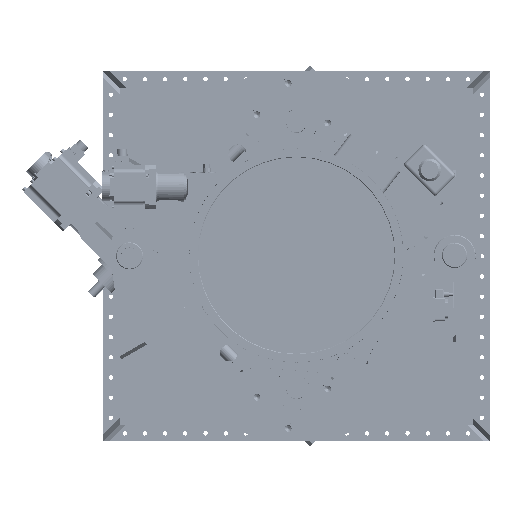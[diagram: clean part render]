
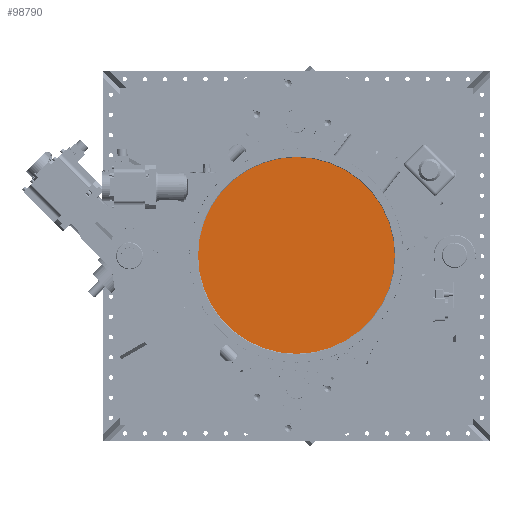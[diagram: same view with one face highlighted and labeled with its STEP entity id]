
A CAD part, top view. The second image highlights one B-rep face of the part: STEP entity #98790.
In plain terms, the highlighted planar face has unit normal (0, 0, 1).
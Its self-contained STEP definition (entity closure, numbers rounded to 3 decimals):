
#3598=PLANE('',#108183);
#10979=FACE_OUTER_BOUND('',#16944,.T.);
#16944=EDGE_LOOP('',(#80237));
#22559=CIRCLE('',#107918,292.1);
#42883=VERTEX_POINT('',#172237);
#55627=EDGE_CURVE('',#42883,#42883,#22559,.T.);
#80237=ORIENTED_EDGE('',*,*,#55627,.F.);
#98790=ADVANCED_FACE('',(#10979),#3598,.T.);
#107918=AXIS2_PLACEMENT_3D('',#172239,#130282,#130283);
#108183=AXIS2_PLACEMENT_3D('',#173451,#130919,#130920);
#130282=DIRECTION('center_axis',(0.,0.,
-1.));
#130283=DIRECTION('ref_axis',(-0.5,0.866,0.));
#130919=DIRECTION('center_axis',(0.,0.,
1.));
#130920=DIRECTION('ref_axis',(0.5,-0.866,0.));
#172237=CARTESIAN_POINT('',(146.05,-252.966,1403.65));
#172239=CARTESIAN_POINT('Origin',(0.,0.,
1403.65));
#173451=CARTESIAN_POINT('Origin',(0.,0.,
1403.65));
